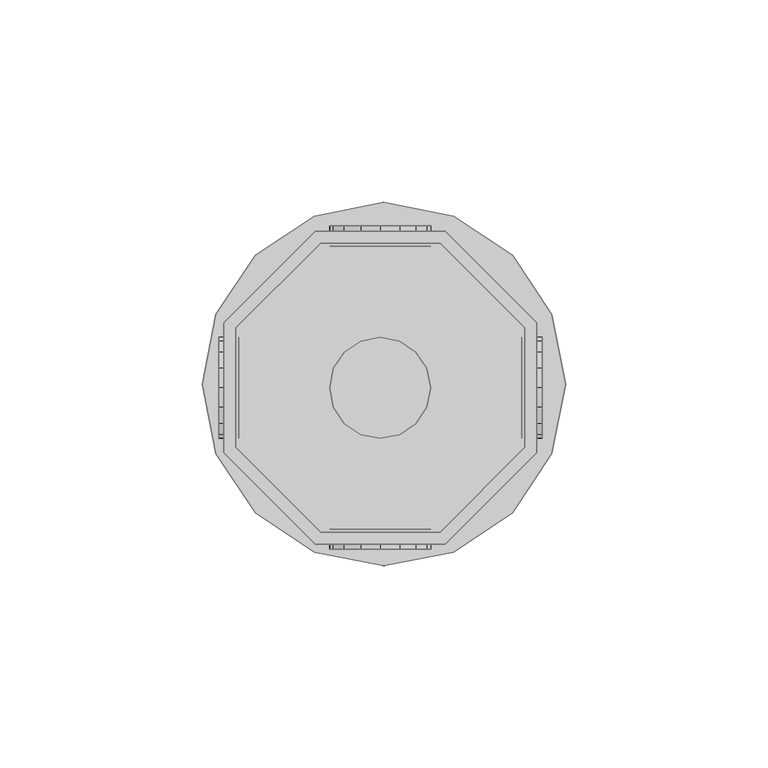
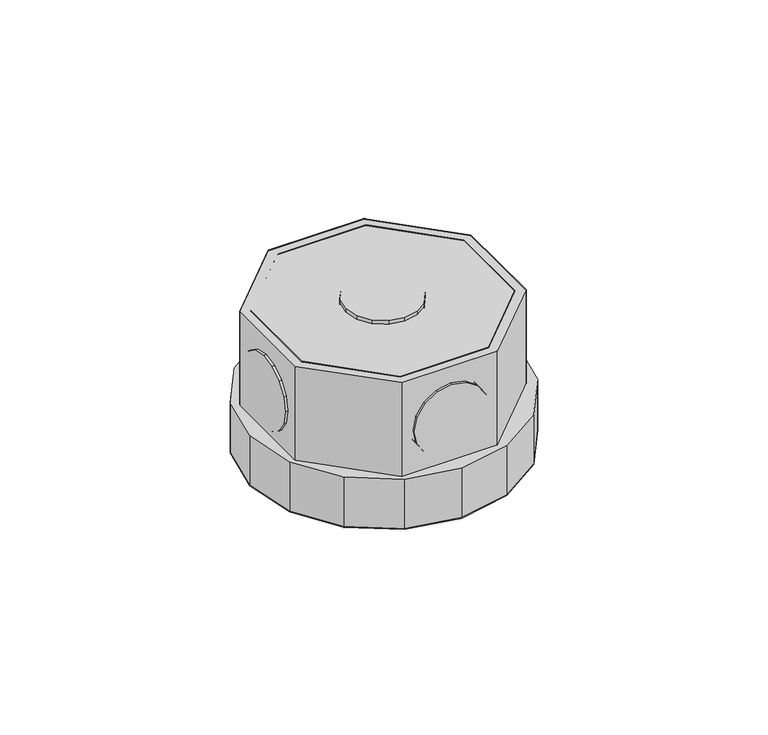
"""IFC4 building model written with IfcOpenShell, lengths in millimetres: light fixture geometry,  213460 :  213460."""

from ifc_helpers import new_model, si_unit, origin, place, context, project, spatial, triangles, source, transform, mapped, element, save


def light_fixture_3eda7b53(model_context):
    return source(origin(), model_context, "Body", "Tessellation", [
        triangles([(10526.6004913, 16612.0999695, 2924.5999741), (10526.6004913, 16582.4994507, 2975.400071), (10526.6004913, 16582.4994507, 2924.5999741), (10526.6004913, 16612.0999695, 2975.400071), (10601.0994324, 16613.2998962, 2924.5999741), (10601.0994324, 16581.19953, 2975.400071), (10601.0994324, 16581.19953, 2924.5999741), (10601.0994324, 16613.2998962, 2975.400071), (10547.6003723, 16561.4995697, 2975.400071), (10547.6003723, 16561.4995697, 2924.5999741), (10578.3996552, 16635.9996735, 2924.5999741), (10578.3996552, 16635.9996735, 2975.400071), (10577.1997284, 16561.4995697, 2975.400071), (10577.1997284, 16561.4995697, 2924.5999741), (10546.3004517, 16635.9996735, 2924.5999741), (10546.3004517, 16635.9996735, 2975.400071), (10598.0996155, 16582.4994507, 2975.400071), (10598.0996155, 16582.4994507, 2924.5999741), (10523.5995117, 16613.2998962, 2924.5999741), (10523.5995117, 16613.2998962, 2975.400071), (10598.0996155, 16612.0999695, 2924.5999741), (10598.0996155, 16612.0999695, 2975.400071), (10523.5995117, 16581.19953, 2975.400071), (10523.5995117, 16581.19953, 2924.5999741), (10577.1997284, 16632.9998566, 2924.5999741), (10577.1997284, 16632.9998566, 2975.400071), (10546.3004517, 16558.4997528, 2975.400071), (10546.3004517, 16558.4997528, 2924.5999741), (10578.3996552, 16558.4997528, 2975.400071), (10547.6003723, 16632.9998566, 2975.400071), (10547.6003723, 16632.9998566, 2924.5999741), (10578.3996552, 16558.4997528, 2924.5999741), (10577.1997284, 16561.4995697, 2972.3999634), (10598.0996155, 16582.4994507, 2972.3999634), (10598.0996155, 16612.0999695, 2972.3999634), (10577.1997284, 16632.9998566, 2972.3999634), (10547.6003723, 16632.9998566, 2972.3999634), (10526.6004913, 16612.0999695, 2972.3999634), (10526.6004913, 16582.4994507, 2972.3999634), (10547.6003723, 16561.4995697, 2972.3999634), (10546.3004517, 16558.4997528, 2942.4000504), (10523.5995117, 16581.19953, 2942.4000504), (10523.5995117, 16613.2998962, 2942.4000504), (10546.3004517, 16635.9996735, 2942.4000504), (10578.3996552, 16635.9996735, 2942.4000504), (10601.0994324, 16613.2998962, 2942.4000504), (10601.0994324, 16581.19953, 2942.4000504), (10578.3996552, 16558.4997528, 2942.4000504), (10604.8003693, 16580.8995483, 2942.4000504), (10580.499527, 16556.5998688, 2942.4000504), (10595.0997986, 16566.3004395, 2942.4000504), (10563.3005768, 16553.2000763, 2942.4000504), (10546.00047, 16556.5998688, 2942.4000504), (10531.4001984, 16566.3004395, 2942.4000504), (10521.6996277, 16580.8995483, 2942.4000504), (10518.2998352, 16598.1996552, 2942.4000504), (10521.6996277, 16615.3997681, 2942.4000504), (10546.00047, 16639.6994476, 2942.4000504), (10531.4001984, 16630.0000397, 2942.4000504), (10608.3001556, 16598.1996552, 2942.4000504), (10604.8003693, 16615.3997681, 2942.4000504), (10595.0997986, 16630.0000397, 2942.4000504), (10580.499527, 16639.6994476, 2942.4000504), (10563.3005768, 16643.2003967, 2942.4000504), (10580.499527, 16556.5998688, 2924.5999741), (10604.8003693, 16580.8995483, 2924.5999741), (10595.0997986, 16566.3004395, 2924.5999741), (10563.3005768, 16553.2000763, 2924.5999741), (10546.00047, 16556.5998688, 2924.5999741), (10531.4001984, 16566.3004395, 2924.5999741), (10521.6996277, 16580.8995483, 2924.5999741), (10518.2998352, 16598.1996552, 2924.5999741), (10521.6996277, 16615.3997681, 2924.5999741), (10546.00047, 16639.6994476, 2924.5999741), (10531.4001984, 16630.0000397, 2924.5999741), (10608.3001556, 16598.1996552, 2924.5999741), (10604.8003693, 16615.3997681, 2924.5999741), (10595.0997986, 16630.0000397, 2924.5999741), (10580.499527, 16639.6994476, 2924.5999741), (10563.3005768, 16643.2003967, 2924.5999741), (10522.399585, 16585.7004181, 2952.6000092), (10522.399585, 16592.5000031, 2945.9001274), (10522.399585, 16588.4002533, 2948.5999626), (10522.399585, 16584.800473, 2957.4000069), (10522.399585, 16597.2997101, 2944.8998978), (10522.399585, 16585.7004181, 2962.2000046), (10522.399585, 16602.1005798, 2945.9001274), (10522.399585, 16588.4002533, 2966.2000511), (10522.399585, 16606.1003357, 2948.5999626), (10522.399585, 16592.5000031, 2968.8998863), (10522.399585, 16608.8001709, 2952.6000092), (10522.399585, 16597.2997101, 2969.900116), (10522.399585, 16609.8001099, 2957.4000069), (10522.399585, 16602.1005798, 2968.8998863), (10522.399585, 16608.8001709, 2962.2000046), (10522.399585, 16606.1003357, 2966.2000511), (10527.4004425, 16592.5000031, 2945.9001274), (10527.4004425, 16585.7004181, 2952.6000092), (10527.4004425, 16588.4002533, 2948.5999626), (10527.4004425, 16597.2997101, 2944.8998978), (10527.4004425, 16584.800473, 2957.4000069), (10527.4004425, 16602.1005798, 2945.9001274), (10527.4004425, 16585.7004181, 2962.2000046), (10527.4004425, 16606.1003357, 2948.5999626), (10527.4004425, 16588.4002533, 2966.2000511), (10527.4004425, 16592.5000031, 2968.8998863), (10527.4004425, 16608.8001709, 2952.6000092), (10527.4004425, 16597.2997101, 2969.900116), (10527.4004425, 16609.8001099, 2957.4000069), (10527.4004425, 16602.1005798, 2968.8998863), (10527.4004425, 16608.8001709, 2962.2000046), (10527.4004425, 16606.1003357, 2966.2000511), (10597.3996582, 16585.7004181, 2952.6000092), (10597.3996582, 16592.5000031, 2945.9001274), (10597.3996582, 16588.4002533, 2948.5999626), (10597.3996582, 16584.800473, 2957.4000069), (10597.3996582, 16597.2997101, 2944.8998978), (10597.3996582, 16585.7004181, 2962.2000046), (10597.3996582, 16602.1005798, 2945.9001274), (10597.3996582, 16588.4002533, 2966.2000511), (10597.3996582, 16606.1003357, 2948.5999626), (10597.3996582, 16592.5000031, 2968.8998863), (10597.3996582, 16608.8001709, 2952.6000092), (10597.3996582, 16597.2997101, 2969.900116), (10597.3996582, 16609.8001099, 2957.4000069), (10597.3996582, 16602.1005798, 2968.8998863), (10597.3996582, 16608.8001709, 2962.2000046), (10597.3996582, 16606.1003357, 2966.2000511), (10602.4005157, 16592.5000031, 2945.9001274), (10602.4005157, 16585.7004181, 2952.6000092), (10602.4005157, 16588.4002533, 2948.5999626), (10602.4005157, 16597.2997101, 2944.8998978), (10602.4005157, 16584.800473, 2957.4000069), (10602.4005157, 16602.1005798, 2945.9001274), (10602.4005157, 16585.7004181, 2962.2000046), (10602.4005157, 16606.1003357, 2948.5999626), (10602.4005157, 16588.4002533, 2966.2000511), (10602.4005157, 16592.5000031, 2968.8998863), (10602.4005157, 16608.8001709, 2952.6000092), (10602.4005157, 16597.2997101, 2969.900116), (10602.4005157, 16609.8001099, 2957.4000069), (10602.4005157, 16602.1005798, 2968.8998863), (10602.4005157, 16608.8001709, 2962.2000046), (10602.4005157, 16606.1003357, 2966.2000511), (10567.2003387, 16562.2995209, 2945.9001274), (10573.8999298, 16562.2995209, 2952.6000092), (10571.2000946, 16562.2995209, 2948.5999626), (10562.399469, 16562.2995209, 2944.8998978), (10574.8998688, 16562.2995209, 2957.4000069), (10557.599762, 16562.2995209, 2945.9001274), (10573.8999298, 16562.2995209, 2962.2000046), (10553.5000122, 16562.2995209, 2948.5999626), (10571.2000946, 16562.2995209, 2966.2000511), (10567.2003387, 16562.2995209, 2968.8998863), (10550.800177, 16562.2995209, 2952.6000092), (10562.399469, 16562.2995209, 2969.900116), (10549.9002319, 16562.2995209, 2957.4000069), (10557.599762, 16562.2995209, 2968.8998863), (10550.800177, 16562.2995209, 2962.2000046), (10553.5000122, 16562.2995209, 2966.2000511), (10573.8999298, 16557.299826, 2952.6000092), (10567.2003387, 16557.299826, 2945.9001274), (10571.2000946, 16557.299826, 2948.5999626), (10574.8998688, 16557.299826, 2957.4000069), (10562.399469, 16557.299826, 2944.8998978), (10573.8999298, 16557.299826, 2962.2000046), (10557.599762, 16557.299826, 2945.9001274), (10571.2000946, 16557.299826, 2966.2000511), (10553.5000122, 16557.299826, 2948.5999626), (10567.2003387, 16557.299826, 2968.8998863), (10550.800177, 16557.299826, 2952.6000092), (10562.399469, 16557.299826, 2969.900116), (10549.9002319, 16557.299826, 2957.4000069), (10557.599762, 16557.299826, 2968.8998863), (10550.800177, 16557.299826, 2962.2000046), (10553.5000122, 16557.299826, 2966.2000511), (10567.2003387, 16637.2995941, 2945.9001274), (10573.8999298, 16637.2995941, 2952.6000092), (10571.2000946, 16637.2995941, 2948.5999626), (10562.399469, 16637.2995941, 2944.8998978), (10574.8998688, 16637.2995941, 2957.4000069), (10557.599762, 16637.2995941, 2945.9001274), (10573.8999298, 16637.2995941, 2962.2000046), (10553.5000122, 16637.2995941, 2948.5999626), (10571.2000946, 16637.2995941, 2966.2000511), (10567.2003387, 16637.2995941, 2968.8998863), (10550.800177, 16637.2995941, 2952.6000092), (10562.399469, 16637.2995941, 2969.900116), (10549.9002319, 16637.2995941, 2957.4000069), (10557.599762, 16637.2995941, 2968.8998863), (10550.800177, 16637.2995941, 2962.2000046), (10553.5000122, 16637.2995941, 2966.2000511), (10573.8999298, 16632.2998993, 2952.6000092), (10567.2003387, 16632.2998993, 2945.9001274), (10571.2000946, 16632.2998993, 2948.5999626), (10574.8998688, 16632.2998993, 2957.4000069), (10562.399469, 16632.2998993, 2944.8998978), (10573.8999298, 16632.2998993, 2962.2000046), (10557.599762, 16632.2998993, 2945.9001274), (10571.2000946, 16632.2998993, 2966.2000511), (10553.5000122, 16632.2998993, 2948.5999626), (10567.2003387, 16632.2998993, 2968.8998863), (10550.800177, 16632.2998993, 2952.6000092), (10562.399469, 16632.2998993, 2969.900116), (10549.9002319, 16632.2998993, 2957.4000069), (10557.599762, 16632.2998993, 2968.8998863), (10550.800177, 16632.2998993, 2962.2000046), (10553.5000122, 16632.2998993, 2966.2000511), (10573.8999298, 16592.5000031, 2976.9999733), (10567.2003387, 16585.7004181, 2976.9999733), (10571.2000946, 16588.4002533, 2976.9999733), (10562.399469, 16584.800473, 2976.9999733), (10574.8998688, 16597.2997101, 2976.9999733), (10557.599762, 16585.7004181, 2976.9999733), (10573.8999298, 16602.1005798, 2976.9999733), (10553.5000122, 16588.4002533, 2976.9999733), (10571.2000946, 16606.1003357, 2976.9999733), (10550.800177, 16592.5000031, 2976.9999733), (10567.2003387, 16608.8001709, 2976.9999733), (10549.9002319, 16597.2997101, 2976.9999733), (10562.399469, 16609.8001099, 2976.9999733), (10550.800177, 16602.1005798, 2976.9999733), (10557.599762, 16608.8001709, 2976.9999733), (10553.5000122, 16606.1003357, 2976.9999733), (10567.2003387, 16585.7004181, 2971.9999878), (10573.8999298, 16592.5000031, 2971.9999878), (10571.2000946, 16588.4002533, 2971.9999878), (10562.399469, 16584.800473, 2971.9999878), (10574.8998688, 16597.2997101, 2971.9999878), (10557.599762, 16585.7004181, 2971.9999878), (10573.8999298, 16602.1005798, 2971.9999878), (10553.5000122, 16588.4002533, 2971.9999878), (10571.2000946, 16606.1003357, 2971.9999878), (10550.800177, 16592.5000031, 2971.9999878), (10567.2003387, 16608.8001709, 2971.9999878), (10549.9002319, 16597.2997101, 2971.9999878), (10562.399469, 16609.8001099, 2971.9999878), (10550.800177, 16602.1005798, 2971.9999878), (10557.599762, 16608.8001709, 2971.9999878), (10553.5000122, 16606.1003357, 2971.9999878)], [[1, 2, 3], [2, 1, 4], [5, 6, 7], [6, 5, 8], [3, 9, 10], [9, 3, 2], [11, 8, 5], [8, 11, 12], [10, 13, 14], [13, 10, 9], [15, 12, 11], [12, 15, 16], [14, 17, 18], [17, 14, 13], [19, 16, 15], [16, 19, 20], [17, 21, 18], [21, 17, 22], [23, 19, 24], [19, 23, 20], [22, 25, 21], [25, 22, 26], [27, 24, 28], [24, 27, 23], [6, 13, 29], [29, 13, 27], [27, 13, 9], [27, 9, 23], [23, 9, 2], [23, 2, 4], [23, 4, 20], [20, 4, 30], [8, 17, 6], [6, 17, 13], [17, 8, 22], [12, 22, 8], [22, 12, 26], [30, 26, 12], [16, 30, 12], [20, 30, 16], [30, 1, 31], [1, 30, 4], [6, 32, 7], [32, 6, 29], [32, 14, 7], [28, 14, 32], [14, 28, 10], [24, 10, 28], [10, 24, 3], [1, 3, 24], [19, 1, 24], [31, 1, 19], [7, 18, 5], [14, 18, 7], [5, 18, 21], [5, 21, 11], [11, 21, 25], [11, 25, 31], [11, 31, 15], [15, 31, 19], [26, 31, 25], [31, 26, 30], [29, 28, 32], [28, 29, 27], [17, 33, 34], [33, 17, 13], [35, 17, 34], [17, 35, 22], [36, 22, 35], [22, 36, 26], [37, 26, 36], [26, 37, 30], [38, 30, 37], [30, 38, 4], [2, 38, 39], [38, 2, 4], [17, 9, 13], [9, 17, 22], [9, 22, 2], [2, 22, 26], [2, 26, 4], [4, 26, 30], [13, 40, 33], [40, 13, 9], [40, 34, 33], [35, 34, 40], [35, 40, 39], [35, 39, 36], [36, 39, 38], [36, 38, 37], [9, 39, 40], [39, 9, 2], [24, 41, 28], [41, 24, 42], [19, 42, 24], [42, 19, 43], [44, 19, 15], [19, 44, 43], [45, 15, 11], [15, 45, 44], [46, 11, 5], [11, 46, 45], [47, 5, 7], [5, 47, 46], [32, 47, 7], [47, 32, 48], [28, 48, 32], [48, 28, 41], [49, 50, 51], [48, 50, 49], [50, 48, 52], [41, 52, 48], [52, 41, 53], [53, 41, 54], [42, 54, 41], [54, 42, 55], [55, 42, 43], [55, 43, 56], [56, 43, 57], [57, 43, 44], [57, 44, 58], [57, 58, 59], [47, 49, 60], [49, 47, 48], [47, 60, 46], [61, 46, 60], [46, 61, 62], [46, 62, 45], [45, 62, 63], [44, 45, 63], [44, 63, 64], [44, 64, 58], [65, 66, 67], [66, 65, 32], [68, 32, 65], [32, 68, 28], [28, 68, 69], [70, 28, 69], [28, 70, 24], [71, 24, 70], [19, 24, 71], [19, 71, 72], [73, 19, 72], [19, 73, 15], [74, 15, 73], [74, 73, 75], [76, 66, 7], [32, 7, 66], [5, 76, 7], [76, 5, 77], [77, 5, 78], [11, 78, 5], [78, 11, 79], [79, 11, 15], [79, 15, 80], [80, 15, 74], [57, 75, 73], [75, 57, 59], [56, 73, 72], [73, 56, 57], [55, 72, 71], [72, 55, 56], [54, 71, 70], [71, 54, 55], [53, 70, 69], [70, 53, 54], [52, 69, 68], [69, 52, 53], [50, 68, 65], [68, 50, 52], [51, 65, 67], [65, 51, 50], [66, 51, 67], [51, 66, 49], [76, 49, 66], [49, 76, 60], [77, 60, 76], [60, 77, 61], [78, 61, 77], [61, 78, 62], [79, 62, 78], [62, 79, 63], [80, 63, 79], [63, 80, 64], [75, 58, 74], [58, 75, 59], [74, 64, 80], [64, 74, 58], [81, 82, 83], [82, 81, 84], [85, 82, 84], [85, 84, 86], [87, 85, 86], [87, 86, 88], [87, 88, 89], [89, 88, 90], [89, 90, 91], [91, 90, 92], [91, 92, 93], [93, 92, 94], [93, 94, 95], [95, 94, 96], [97, 98, 99], [98, 97, 100], [101, 98, 100], [101, 100, 102], [103, 101, 102], [103, 102, 104], [103, 104, 105], [105, 104, 106], [106, 104, 107], [106, 107, 108], [108, 107, 109], [108, 109, 110], [110, 109, 111], [110, 111, 112], [87, 104, 102], [104, 87, 89], [85, 102, 100], [102, 85, 87], [82, 100, 97], [100, 82, 85], [83, 97, 99], [97, 83, 82], [98, 83, 99], [83, 98, 81], [101, 81, 98], [81, 101, 84], [103, 84, 101], [84, 103, 86], [105, 86, 103], [86, 105, 88], [106, 88, 105], [88, 106, 90], [108, 90, 106], [90, 108, 92], [110, 92, 108], [92, 110, 94], [112, 94, 110], [94, 112, 96], [95, 112, 111], [112, 95, 96], [93, 111, 109], [111, 93, 95], [89, 107, 104], [107, 89, 91], [91, 109, 107], [109, 91, 93], [113, 114, 115], [114, 113, 116], [117, 114, 116], [117, 116, 118], [119, 117, 118], [119, 118, 120], [119, 120, 121], [121, 120, 122], [121, 122, 123], [123, 122, 124], [123, 124, 125], [125, 124, 126], [125, 126, 127], [127, 126, 128], [129, 130, 131], [130, 129, 132], [133, 130, 132], [133, 132, 134], [135, 133, 134], [135, 134, 136], [135, 136, 137], [137, 136, 138], [138, 136, 139], [138, 139, 140], [140, 139, 141], [140, 141, 142], [142, 141, 143], [142, 143, 144], [119, 136, 134], [136, 119, 121], [117, 134, 132], [134, 117, 119], [114, 132, 129], [132, 114, 117], [115, 129, 131], [129, 115, 114], [130, 115, 131], [115, 130, 113], [133, 113, 130], [113, 133, 116], [135, 116, 133], [116, 135, 118], [137, 118, 135], [118, 137, 120], [138, 120, 137], [120, 138, 122], [140, 122, 138], [122, 140, 124], [142, 124, 140], [124, 142, 126], [144, 126, 142], [126, 144, 128], [127, 144, 143], [144, 127, 128], [125, 143, 141], [143, 125, 127], [121, 139, 136], [139, 121, 123], [123, 141, 139], [141, 123, 125], [145, 146, 147], [146, 145, 148], [149, 146, 148], [149, 148, 150], [151, 149, 150], [151, 150, 152], [151, 152, 153], [153, 152, 154], [154, 152, 155], [154, 155, 156], [156, 155, 157], [156, 157, 158], [158, 157, 159], [158, 159, 160], [161, 162, 163], [162, 161, 164], [165, 162, 164], [165, 164, 166], [167, 165, 166], [167, 166, 168], [169, 167, 168], [169, 168, 170], [169, 170, 171], [171, 170, 172], [171, 172, 173], [173, 172, 174], [173, 174, 175], [175, 174, 176], [158, 176, 174], [176, 158, 160], [156, 174, 172], [174, 156, 158], [154, 172, 170], [172, 154, 156], [153, 170, 168], [170, 153, 154], [151, 168, 166], [168, 151, 153], [149, 166, 164], [166, 149, 151], [146, 164, 161], [164, 146, 149], [147, 161, 163], [161, 147, 146], [162, 147, 163], [147, 162, 145], [165, 145, 162], [145, 165, 148], [167, 148, 165], [148, 167, 150], [169, 150, 167], [150, 169, 152], [171, 152, 169], [152, 171, 155], [173, 155, 171], [155, 173, 157], [176, 159, 175], [159, 176, 160], [175, 157, 173], [157, 175, 159], [177, 178, 179], [178, 177, 180], [181, 178, 180], [181, 180, 182], [183, 181, 182], [183, 182, 184], [183, 184, 185], [185, 184, 186], [186, 184, 187], [186, 187, 188], [188, 187, 189], [188, 189, 190], [190, 189, 191], [190, 191, 192], [193, 194, 195], [194, 193, 196], [197, 194, 196], [197, 196, 198], [199, 197, 198], [199, 198, 200], [201, 199, 200], [201, 200, 202], [201, 202, 203], [203, 202, 204], [203, 204, 205], [205, 204, 206], [205, 206, 207], [207, 206, 208], [190, 208, 206], [208, 190, 192], [188, 206, 204], [206, 188, 190], [186, 204, 202], [204, 186, 188], [185, 202, 200], [202, 185, 186], [183, 200, 198], [200, 183, 185], [181, 198, 196], [198, 181, 183], [178, 196, 193], [196, 178, 181], [179, 193, 195], [193, 179, 178], [194, 179, 195], [179, 194, 177], [197, 177, 194], [177, 197, 180], [199, 180, 197], [180, 199, 182], [201, 182, 199], [182, 201, 184], [203, 184, 201], [184, 203, 187], [205, 187, 203], [187, 205, 189], [208, 191, 207], [191, 208, 192], [207, 189, 205], [189, 207, 191], [209, 210, 211], [212, 210, 209], [212, 209, 213], [214, 212, 213], [214, 213, 215], [216, 214, 215], [216, 215, 217], [216, 217, 218], [218, 217, 219], [218, 219, 220], [220, 219, 221], [220, 221, 222], [222, 221, 223], [222, 223, 224], [225, 226, 227], [226, 225, 228], [229, 226, 228], [229, 228, 230], [231, 229, 230], [231, 230, 232], [231, 232, 233], [233, 232, 234], [233, 234, 235], [235, 234, 236], [235, 236, 237], [237, 236, 238], [237, 238, 239], [239, 238, 240], [222, 240, 238], [240, 222, 224], [220, 238, 236], [238, 220, 222], [218, 236, 234], [236, 218, 220], [216, 234, 232], [234, 216, 218], [214, 232, 230], [232, 214, 216], [212, 230, 228], [230, 212, 214], [210, 228, 225], [228, 210, 212], [211, 225, 227], [225, 211, 210], [226, 211, 227], [211, 226, 209], [229, 209, 226], [209, 229, 213], [231, 213, 229], [213, 231, 215], [233, 215, 231], [215, 233, 217], [235, 217, 233], [217, 235, 219], [237, 219, 235], [219, 237, 221], [240, 223, 239], [223, 240, 224], [239, 221, 237], [221, 239, 223]], closed=False),
    ])


if __name__ == "__main__":
    model = new_model("IFC4")
    model_context = context("Model", 3, world=origin())
    ifc_project = project(units=[si_unit("LENGTHUNIT", "METRE", prefix="MILLI")], contexts=[model_context])
    site = spatial("IfcSite", under=ifc_project)
    building = spatial("IfcBuilding", under=site)
    placement = place(None, origin())
    light_fixture_shape = light_fixture_3eda7b53(model_context)
    element("IfcLightFixture", 1, ObjectType=" 213460 :  213460", at=placement, inside=building, context=model_context, shape_type="MappedRepresentation", body=[
        mapped(light_fixture_shape, transform((0.0, 0.0, 0.0), x_axis=(1.0, 0.0, 0.0), y_axis=(0.0, 1.0, 0.0), z_axis=(0.0, 0.0, 1.0))),
    ])
    save(model, "model.ifc")
